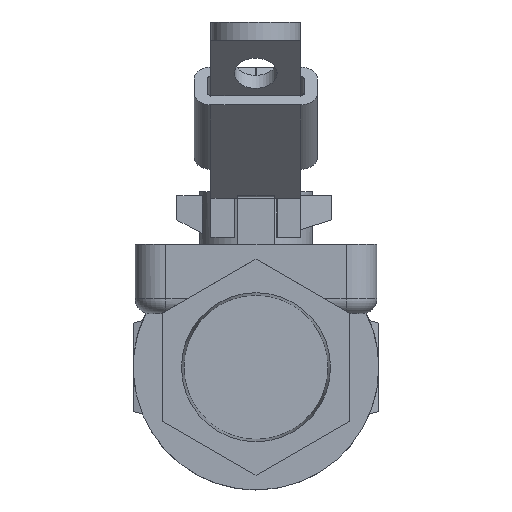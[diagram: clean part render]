
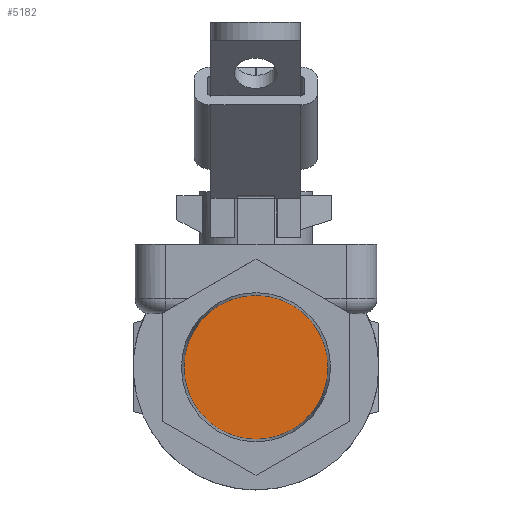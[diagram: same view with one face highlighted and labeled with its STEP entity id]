
A CAD part, left-side view. The second image highlights one B-rep face of the part: STEP entity #5182.
In plain terms, the highlighted free-form (B-spline) face has degree [1, 1] with [2, 2] control points.
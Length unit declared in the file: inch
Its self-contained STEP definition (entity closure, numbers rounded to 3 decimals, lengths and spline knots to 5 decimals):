
#5166=CARTESIAN_POINT('',(0.6609,0.59867,0.59866));
#5167=CARTESIAN_POINT('',(0.6609,-0.59866,0.59866));
#5168=CARTESIAN_POINT('',(0.6609,0.59867,-0.59866));
#5169=CARTESIAN_POINT('',(0.6609,-0.59866,-0.59866));
#5170=B_SPLINE_SURFACE_WITH_KNOTS('',1,1,((#5166,#5168),(#5167,#5169)),.UNSPECIFIED.,.F.,.F.,.U.,(2,2),(2,2),(0.0,1.19733),(0.0,1.19733),.UNSPECIFIED.);
#5171=CARTESIAN_POINT('',(0.6609,0.59867,0.0));
#5172=VERTEX_POINT('',#5171);
#5173=CARTESIAN_POINT('',(0.6609,0.0,0.0));
#5174=DIRECTION('',(1.0,0.0,0.0));
#5175=DIRECTION('',(0.0,1.0,0.0));
#5176=AXIS2_PLACEMENT_3D('',#5173,#5174,#5175);
#5177=CIRCLE('',#5176,0.59866);
#5178=EDGE_CURVE('',#5172,#5172,#5177,.T.);
#5179=ORIENTED_EDGE('',*,*,#5178,.F.);
#5180=EDGE_LOOP('',(#5179));
#5181=FACE_OUTER_BOUND('',#5180,.T.);
#5182=ADVANCED_FACE('',(#5181),#5170,.F.);
